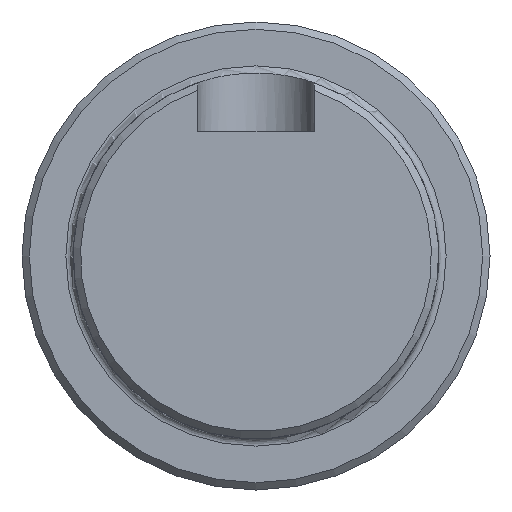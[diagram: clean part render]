
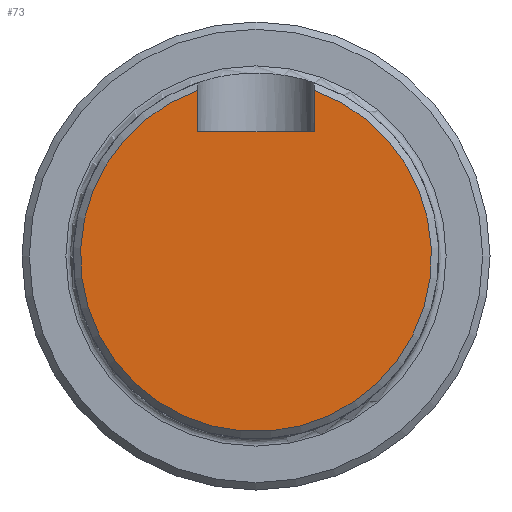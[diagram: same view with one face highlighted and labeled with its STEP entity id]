
A CAD part, front view. The second image highlights one B-rep face of the part: STEP entity #73.
In plain terms, the highlighted planar face has unit normal (0, -1, 0).
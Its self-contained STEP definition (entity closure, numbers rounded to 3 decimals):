
#47=PLANE('',#358);
#57=FACE_OUTER_BOUND('',#163,.T.);
#73=ADVANCED_FACE('',(#57),#47,.T.);
#105=LINE('',#553,#123);
#106=LINE('',#555,#124);
#107=LINE('',#559,#125);
#123=VECTOR('',#425,1.);
#124=VECTOR('',#428,1.);
#125=VECTOR('',#431,1.);
#163=EDGE_LOOP('',(#219,#220,#221,#222));
#219=ORIENTED_EDGE('',*,*,#308,.T.);
#220=ORIENTED_EDGE('',*,*,#309,.T.);
#221=ORIENTED_EDGE('',*,*,#310,.F.);
#222=ORIENTED_EDGE('',*,*,#307,.T.);
#272=VERTEX_POINT('',#548);
#274=VERTEX_POINT('',#552);
#275=VERTEX_POINT('',#556);
#276=VERTEX_POINT('',#558);
#307=EDGE_CURVE('',#272,#274,#105,.T.);
#308=EDGE_CURVE('',#274,#275,#106,.T.);
#309=EDGE_CURVE('',#275,#276,#331,.T.);
#310=EDGE_CURVE('',#272,#276,#107,.T.);
#331=CIRCLE('',#357,12.);
#357=AXIS2_PLACEMENT_3D('',#557,#429,#430);
#358=AXIS2_PLACEMENT_3D('',#560,#432,#433);
#425=DIRECTION('',(-1.,0.,0.));
#428=DIRECTION('',(0.,0.,1.));
#429=DIRECTION('',(0.,-1.,0.));
#430=DIRECTION('',(0.,0.,-1.));
#431=DIRECTION('',(0.,0.,1.));
#432=DIRECTION('',(0.,-1.,0.));
#433=DIRECTION('',(0.,0.,-1.));
#548=CARTESIAN_POINT('',(4.,-163.,8.5));
#552=CARTESIAN_POINT('',(-4.,-163.,8.5));
#553=CARTESIAN_POINT('',(0.,-163.,8.5));
#555=CARTESIAN_POINT('',(-4.,-163.,8.5));
#556=CARTESIAN_POINT('',(-4.,-163.,11.314));
#557=CARTESIAN_POINT('',(0.,-163.,0.));
#558=CARTESIAN_POINT('',(4.,-163.,11.314));
#559=CARTESIAN_POINT('',(4.,-163.,8.5));
#560=CARTESIAN_POINT('',(0.,-163.,0.));
